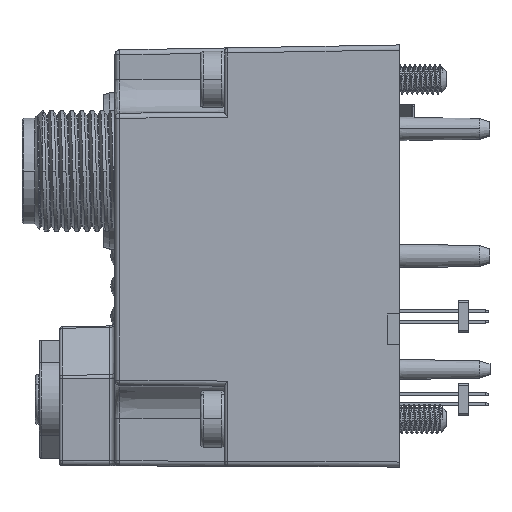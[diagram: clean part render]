
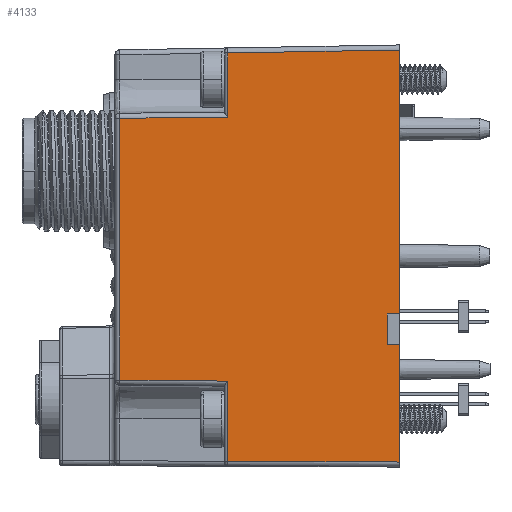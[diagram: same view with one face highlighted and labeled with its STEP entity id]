
A CAD part, left-side view. The second image highlights one B-rep face of the part: STEP entity #4133.
In plain terms, the highlighted planar face has unit normal (-1, 0.018, 0).
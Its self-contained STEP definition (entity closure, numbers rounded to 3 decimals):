
#446 = DIRECTION ( 'NONE',  ( -0.017, -0.998, 0.052 ) ) ;
#1212 = VECTOR ( 'NONE', #117633, 1000. ) ;
#1637 = VERTEX_POINT ( 'NONE', #81405 ) ;
#1857 = LINE ( 'NONE', #71276, #113927 ) ;
#3591 = EDGE_CURVE ( 'NONE', #73669, #39317, #132846, .T. ) ;
#3697 = DIRECTION ( 'NONE',  ( 0., 0., 1. ) ) ;
#4133 = ADVANCED_FACE ( 'NONE', ( #45913 ), #86852, .F. ) ;
#6467 = DIRECTION ( 'NONE',  ( 1., -0.017, 0. ) ) ;
#7162 = EDGE_CURVE ( 'NONE', #72184, #133238, #7508, .T. ) ;
#7508 = LINE ( 'NONE', #17599, #81649 ) ;
#8699 = VECTOR ( 'NONE', #146460, 1000. ) ;
#9135 = LINE ( 'NONE', #139765, #34349 ) ;
#10474 = EDGE_CURVE ( 'NONE', #133238, #68449, #33890, .T. ) ;
#10534 = CARTESIAN_POINT ( 'NONE',  ( -8.794, 35.081, 59.416 ) ) ;
#10898 = DIRECTION ( 'NONE',  ( -0.017, -1., 0.017 ) ) ;
#17599 = CARTESIAN_POINT ( 'NONE',  ( -8.518, 50.887, 55.763 ) ) ;
#18627 = EDGE_CURVE ( 'NONE', #39317, #69947, #9135, .T. ) ;
#19721 = ORIENTED_EDGE ( 'NONE', *, *, #34953, .F. ) ;
#20598 = ORIENTED_EDGE ( 'NONE', *, *, #24242, .T. ) ;
#23512 = CARTESIAN_POINT ( 'NONE',  ( -8.518, 50.887, 55.763 ) ) ;
#24242 = EDGE_CURVE ( 'NONE', #77612, #24651, #91540, .T. ) ;
#24651 = VERTEX_POINT ( 'NONE', #10534 ) ;
#30589 = AXIS2_PLACEMENT_3D ( 'NONE', #144507, #6467, #145503 ) ;
#31149 = EDGE_LOOP ( 'NONE', ( #74073, #20598, #132458, #93788, #48050, #56488, #120937, #69287, #63808, #66838, #91185, #19721 ) ) ;
#32232 = CARTESIAN_POINT ( 'NONE',  ( -8.794, 35.081, 62.416 ) ) ;
#33328 = CARTESIAN_POINT ( 'NONE',  ( -8.794, 35.081, 62.416 ) ) ;
#33890 = LINE ( 'NONE', #76180, #8699 ) ;
#34349 = VECTOR ( 'NONE', #10898, 1000. ) ;
#34408 = EDGE_CURVE ( 'NONE', #68449, #73669, #42381, .T. ) ;
#34953 = EDGE_CURVE ( 'NONE', #1637, #111058, #67618, .T. ) ;
#35572 = LINE ( 'NONE', #119642, #1212 ) ;
#35858 = DIRECTION ( 'NONE',  ( 0.017, 1., 0.004 ) ) ;
#39317 = VERTEX_POINT ( 'NONE', #42621 ) ;
#42381 = LINE ( 'NONE', #46185, #111080 ) ;
#42621 = CARTESIAN_POINT ( 'NONE',  ( -8.518, 50.887, 88.294 ) ) ;
#42805 = CARTESIAN_POINT ( 'NONE',  ( -8.331, 61.59, 55.857 ) ) ;
#45903 = CARTESIAN_POINT ( 'NONE',  ( -8.331, 61.59, 81.825 ) ) ;
#45913 = FACE_OUTER_BOUND ( 'NONE', #31149, .T. ) ;
#46180 = CARTESIAN_POINT ( 'NONE',  ( -8.794, 35.081, 90.393 ) ) ;
#46185 = CARTESIAN_POINT ( 'NONE',  ( -8.331, 61.59, 81.825 ) ) ;
#46971 = VECTOR ( 'NONE', #446, 1000. ) ;
#48050 = ORIENTED_EDGE ( 'NONE', *, *, #80215, .T. ) ;
#49114 = CARTESIAN_POINT ( 'NONE',  ( -8.815, 33.881, 68.166 ) ) ;
#50474 = VERTEX_POINT ( 'NONE', #32232 ) ;
#54890 = LINE ( 'NONE', #49114, #74787 ) ;
#56488 = ORIENTED_EDGE ( 'NONE', *, *, #18627, .F. ) ;
#59195 = CARTESIAN_POINT ( 'NONE',  ( -8.518, 50.887, 81.918 ) ) ;
#63149 = LINE ( 'NONE', #33328, #46971 ) ;
#63808 = ORIENTED_EDGE ( 'NONE', *, *, #10474, .F. ) ;
#66838 = ORIENTED_EDGE ( 'NONE', *, *, #7162, .F. ) ;
#67618 = LINE ( 'NONE', #105020, #125524 ) ;
#68449 = VERTEX_POINT ( 'NONE', #45903 ) ;
#69287 = ORIENTED_EDGE ( 'NONE', *, *, #34408, .F. ) ;
#69947 = VERTEX_POINT ( 'NONE', #91987 ) ;
#71276 = CARTESIAN_POINT ( 'NONE',  ( -8.815, 33.881, 68.166 ) ) ;
#72184 = VERTEX_POINT ( 'NONE', #23512 ) ;
#73669 = VERTEX_POINT ( 'NONE', #59195 ) ;
#73771 = LINE ( 'NONE', #46180, #131721 ) ;
#74073 = ORIENTED_EDGE ( 'NONE', *, *, #148463, .T. ) ;
#74787 = VECTOR ( 'NONE', #105647, 1000. ) ;
#76180 = CARTESIAN_POINT ( 'NONE',  ( -8.331, 61.59, 90.393 ) ) ;
#76615 = EDGE_CURVE ( 'NONE', #50474, #24651, #73771, .T. ) ;
#77151 = DIRECTION ( 'NONE',  ( 0.017, 0.998, 0.052 ) ) ;
#77612 = VERTEX_POINT ( 'NONE', #89099 ) ;
#80215 = EDGE_CURVE ( 'NONE', #145217, #69947, #54890, .T. ) ;
#81405 = CARTESIAN_POINT ( 'NONE',  ( -8.815, 33.881, 47.741 ) ) ;
#81649 = VECTOR ( 'NONE', #120763, 1000. ) ;
#82905 = DIRECTION ( 'NONE',  ( 0., 0., 1. ) ) ;
#86852 = PLANE ( 'NONE',  #30589 ) ;
#89099 = CARTESIAN_POINT ( 'NONE',  ( -8.815, 33.881, 59.353 ) ) ;
#91185 = ORIENTED_EDGE ( 'NONE', *, *, #128981, .F. ) ;
#91540 = LINE ( 'NONE', #102351, #117032 ) ;
#91987 = CARTESIAN_POINT ( 'NONE',  ( -8.815, 33.881, 88.591 ) ) ;
#93788 = ORIENTED_EDGE ( 'NONE', *, *, #126730, .T. ) ;
#96616 = CARTESIAN_POINT ( 'NONE',  ( -8.518, 50.887, 90.393 ) ) ;
#102351 = CARTESIAN_POINT ( 'NONE',  ( -8.815, 33.881, 59.353 ) ) ;
#105020 = CARTESIAN_POINT ( 'NONE',  ( -8.815, 33.881, 47.741 ) ) ;
#105647 = DIRECTION ( 'NONE',  ( 0., 0., 1. ) ) ;
#111058 = VERTEX_POINT ( 'NONE', #112127 ) ;
#111080 = VECTOR ( 'NONE', #127606, 1000. ) ;
#112127 = CARTESIAN_POINT ( 'NONE',  ( -8.518, 50.887, 47.815 ) ) ;
#113927 = VECTOR ( 'NONE', #82905, 1000. ) ;
#117032 = VECTOR ( 'NONE', #77151, 1000. ) ;
#117633 = DIRECTION ( 'NONE',  ( 0., 0., 1. ) ) ;
#119642 = CARTESIAN_POINT ( 'NONE',  ( -8.518, 50.887, 90.393 ) ) ;
#120763 = DIRECTION ( 'NONE',  ( 0.017, 1., 0.009 ) ) ;
#120937 = ORIENTED_EDGE ( 'NONE', *, *, #3591, .F. ) ;
#125524 = VECTOR ( 'NONE', #35858, 1000. ) ;
#126730 = EDGE_CURVE ( 'NONE', #50474, #145217, #63149, .T. ) ;
#127606 = DIRECTION ( 'NONE',  ( -0.017, -1., 0.009 ) ) ;
#128981 = EDGE_CURVE ( 'NONE', #111058, #72184, #35572, .T. ) ;
#131721 = VECTOR ( 'NONE', #138711, 1000. ) ;
#132458 = ORIENTED_EDGE ( 'NONE', *, *, #76615, .F. ) ;
#132846 = LINE ( 'NONE', #96616, #143709 ) ;
#133238 = VERTEX_POINT ( 'NONE', #42805 ) ;
#138711 = DIRECTION ( 'NONE',  ( 0., 0., -1. ) ) ;
#139765 = CARTESIAN_POINT ( 'NONE',  ( -8.518, 50.887, 88.294 ) ) ;
#143709 = VECTOR ( 'NONE', #3697, 1000. ) ;
#144507 = CARTESIAN_POINT ( 'NONE',  ( -8.815, 33.881, 90.393 ) ) ;
#145217 = VERTEX_POINT ( 'NONE', #148099 ) ;
#145503 = DIRECTION ( 'NONE',  ( 0.017, 1., 0. ) ) ;
#146460 = DIRECTION ( 'NONE',  ( 0., 0., 1. ) ) ;
#148099 = CARTESIAN_POINT ( 'NONE',  ( -8.815, 33.881, 62.479 ) ) ;
#148463 = EDGE_CURVE ( 'NONE', #1637, #77612, #1857, .T. ) ;
